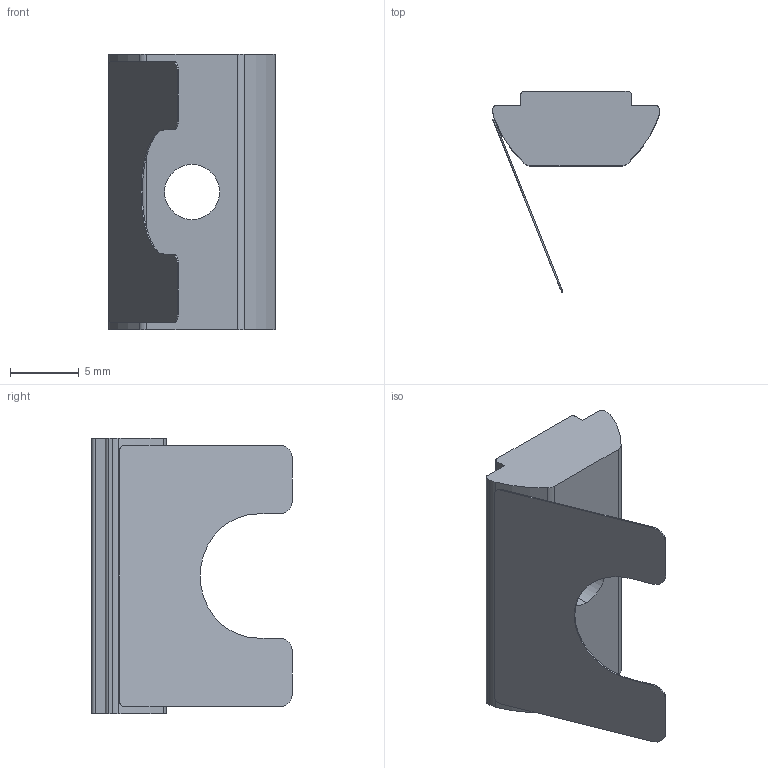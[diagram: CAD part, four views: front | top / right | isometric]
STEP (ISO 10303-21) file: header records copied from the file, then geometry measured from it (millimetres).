
FILE_DESCRIPTION (( 'STEP AP203' ), '1' );
FILE_NAME ('245YS04.STEP', '2018-07-03T11:43:36', ( '' ), ( '' ), 'SwSTEP 2.0', 'SolidWorks 2014', '' );
FILE_SCHEMA (( 'CONFIG_CONTROL_DESIGN' ));
Length unit declared in the file: millimetre
Products named in the file (3): 245YS04; SOMUN YAYI; M4 GÖVDE
Assembly tree (2 placements, depth 2):
  245YS04
    M4 GÖVDE
    SOMUN YAYI
Bounding box: 12.07 x 14.56 x 20 mm (x, y, z)
Volume: 1024.6 mm3; surface area: 1178.1 mm2
Topology: 2 solids, 2 shells, 38 faces, 102 edges, 68 vertices
Faces by surface type: cylinder 19, plane 19
Entity records: 1513 total; most frequent: DIRECTION 226, CARTESIAN_POINT 213, ORIENTED_EDGE 204, EDGE_CURVE 102, AXIS2_PLACEMENT_3D 81, VERTEX_POINT 68, LINE 64, VECTOR 64
